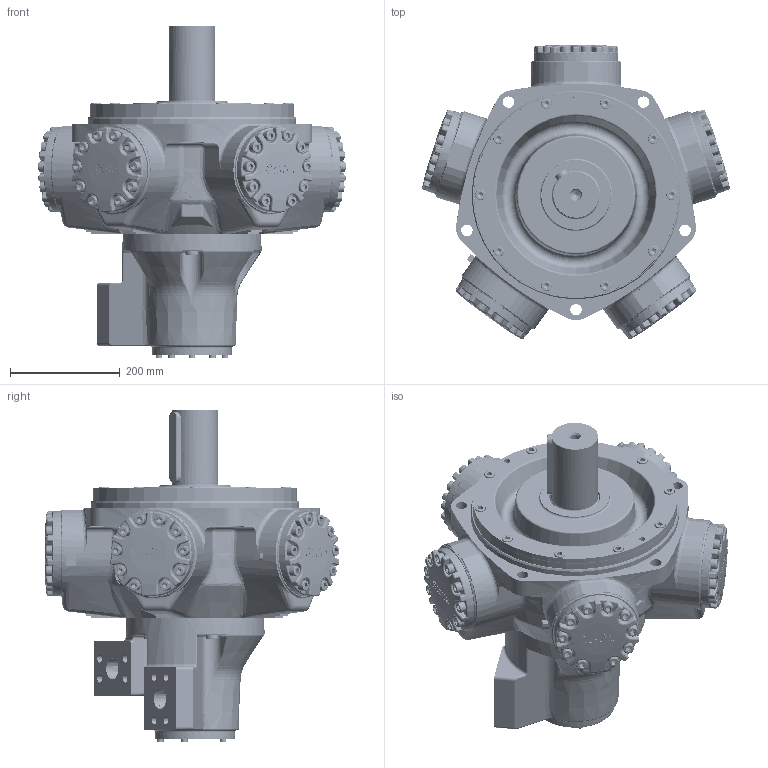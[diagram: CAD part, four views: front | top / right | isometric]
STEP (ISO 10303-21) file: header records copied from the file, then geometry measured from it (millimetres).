
FILE_DESCRIPTION((''),'2;1');
FILE_NAME('C:\Users\MNorman\Desktop\TEMP STUFF\HMB125 P1 FM4 70.stp','2012-10-04T09:45:16',('mnorman'),(''),'Autodesk Inventor 2013','Autodesk Inventor 2013','');
FILE_SCHEMA(('AUTOMOTIVE_DESIGN { 1 0 10303 214 1 1 1 1 }'));
Length unit declared in the file: millimetre
Products named in the file (1): Part1
Bounding box: 562.07 x 537.19 x 606.21 mm (x, y, z)
Volume: 25472456.3 mm3; surface area: 2126124.9 mm2
Topology: 124 solids, 124 shells, 3981 faces, 9670 edges, 6002 vertices
Faces by surface type: plane 1474, bspline 855, cylinder 839, cone 344, torus 326, sphere 143
Full cylindrical faces by diameter (mm): 7.938 x6, 8.334 x5, 11.328 x62, 11.913 x5, 12.7 x65, 13.494 x10, 13.5 x50, 13.843 x8, 15.875 x10, 16.272 x5, 16.51 x1, 17.323 x1, 19.05 x63, 20.6 x50, 20.638 x10, 21 x5, 23.825 x5, 25 x5, 25.4 x5, 28.575 x5, 28.677 x5, 38.1 x5, 38.176 x5, 79.375 x1, 85.001 x1, 88.837 x1, 88.9 x1, 88.951 x1, 92.075 x1, 92.15 x5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
Entity records: 145216 total; most frequent: CARTESIAN_POINT 60674, ORIENTED_EDGE 16632, DIRECTION 14467, EDGE_CURVE 8316, AXIS2_PLACEMENT_3D 5719, VERTEX_POINT 5596, EDGE_LOOP 5140, FACE_OUTER_BOUND 3980
